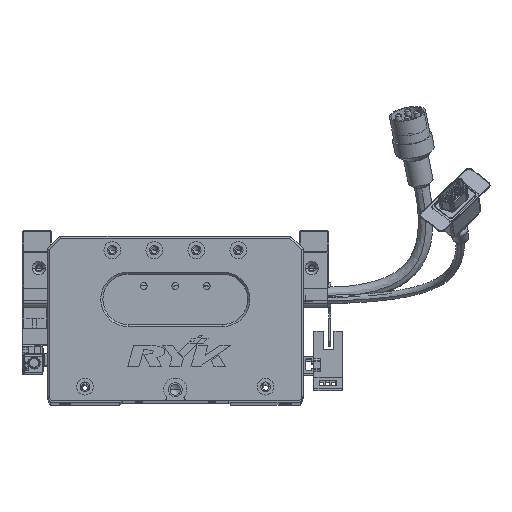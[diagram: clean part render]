
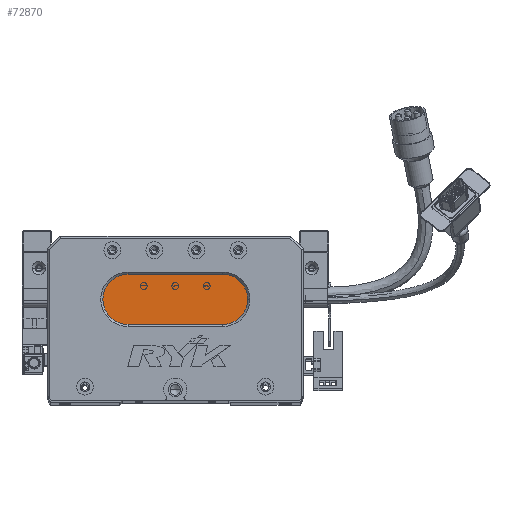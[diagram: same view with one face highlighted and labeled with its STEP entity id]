
A CAD part, top view. The second image highlights one B-rep face of the part: STEP entity #72870.
In plain terms, the highlighted planar face has unit normal (0, 0, 1) as drawn and (0, 0, -1) by its records, which use the part's own axes.
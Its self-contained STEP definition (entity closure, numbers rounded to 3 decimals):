
#1078 = CARTESIAN_POINT ( 'NONE',  ( 83.5, 48., 13. ) ) ;
#4885 = AXIS2_PLACEMENT_3D ( 'NONE', #59339, #53505, #65480 ) ;
#8257 = ORIENTED_EDGE ( 'NONE', *, *, #71774, .T. ) ;
#12543 = PLANE ( 'NONE',  #67859 ) ;
#15078 = DIRECTION ( 'NONE',  ( 0., 0., -1. ) ) ;
#17568 = ORIENTED_EDGE ( 'NONE', *, *, #36843, .T. ) ;
#19617 = VERTEX_POINT ( 'NONE', #66717 ) ;
#19798 = VERTEX_POINT ( 'NONE', #53861 ) ;
#23698 = CARTESIAN_POINT ( 'NONE',  ( 83.5, 60., 13. ) ) ;
#24105 = VERTEX_POINT ( 'NONE', #75148 ) ;
#25104 = VECTOR ( 'NONE', #66281, 1000. ) ;
#27789 = EDGE_LOOP ( 'NONE', ( #17568, #44510, #33105, #74500, #8257 ) ) ;
#28003 = EDGE_CURVE ( 'NONE', #24105, #67875, #78664, .T. ) ;
#29868 = LINE ( 'NONE', #23698, #25104 ) ;
#31618 = EDGE_CURVE ( 'NONE', #67875, #55094, #39324, .T. ) ;
#31758 = FACE_OUTER_BOUND ( 'NONE', #27789, .T. ) ;
#33105 = ORIENTED_EDGE ( 'NONE', *, *, #31618, .T. ) ;
#33250 = CIRCLE ( 'NONE', #38585, 12. ) ;
#35821 = EDGE_CURVE ( 'NONE', #55094, #19617, #73385, .T. ) ;
#36843 = EDGE_CURVE ( 'NONE', #19798, #24105, #33250, .T. ) ;
#38585 = AXIS2_PLACEMENT_3D ( 'NONE', #55931, #62021, #68412 ) ;
#39324 = CIRCLE ( 'NONE', #40790, 12. ) ;
#40790 = AXIS2_PLACEMENT_3D ( 'NONE', #52350, #15078, #45431 ) ;
#44510 = ORIENTED_EDGE ( 'NONE', *, *, #28003, .T. ) ;
#45431 = DIRECTION ( 'NONE',  ( -1., 0., 0. ) ) ;
#47827 = CARTESIAN_POINT ( 'NONE',  ( 38.5, 36., 13. ) ) ;
#49558 = DIRECTION ( 'NONE',  ( -1., 0., 0. ) ) ;
#52350 = CARTESIAN_POINT ( 'NONE',  ( 38.5, 48., 13. ) ) ;
#53505 = DIRECTION ( 'NONE',  ( 0., 0., -1. ) ) ;
#53861 = CARTESIAN_POINT ( 'NONE',  ( 83.5, 60., 13. ) ) ;
#55094 = VERTEX_POINT ( 'NONE', #56335 ) ;
#55886 = VECTOR ( 'NONE', #59554, 1000. ) ;
#55931 = CARTESIAN_POINT ( 'NONE',  ( 83.5, 48., 13. ) ) ;
#56335 = CARTESIAN_POINT ( 'NONE',  ( 26.5, 48., 13. ) ) ;
#59339 = CARTESIAN_POINT ( 'NONE',  ( 38.5, 48., 13. ) ) ;
#59554 = DIRECTION ( 'NONE',  ( -1., 0., 0. ) ) ;
#62021 = DIRECTION ( 'NONE',  ( 0., 0., -1. ) ) ;
#62301 = DIRECTION ( 'NONE',  ( 0., 0., -1. ) ) ;
#65480 = DIRECTION ( 'NONE',  ( -1., 0., 0. ) ) ;
#66281 = DIRECTION ( 'NONE',  ( 1., 0., 0. ) ) ;
#66717 = CARTESIAN_POINT ( 'NONE',  ( 38.5, 60., 13. ) ) ;
#67859 = AXIS2_PLACEMENT_3D ( 'NONE', #1078, #62301, #49558 ) ;
#67875 = VERTEX_POINT ( 'NONE', #47827 ) ;
#68412 = DIRECTION ( 'NONE',  ( -1., 0., 0. ) ) ;
#71774 = EDGE_CURVE ( 'NONE', #19617, #19798, #29868, .T. ) ;
#72057 = CARTESIAN_POINT ( 'NONE',  ( 83.5, 36., 13. ) ) ;
#72870 = ADVANCED_FACE ( 'NONE', ( #31758 ), #12543, .T. ) ;
#73385 = CIRCLE ( 'NONE', #4885, 12. ) ;
#74500 = ORIENTED_EDGE ( 'NONE', *, *, #35821, .T. ) ;
#75148 = CARTESIAN_POINT ( 'NONE',  ( 83.5, 36., 13. ) ) ;
#78664 = LINE ( 'NONE', #72057, #55886 ) ;
